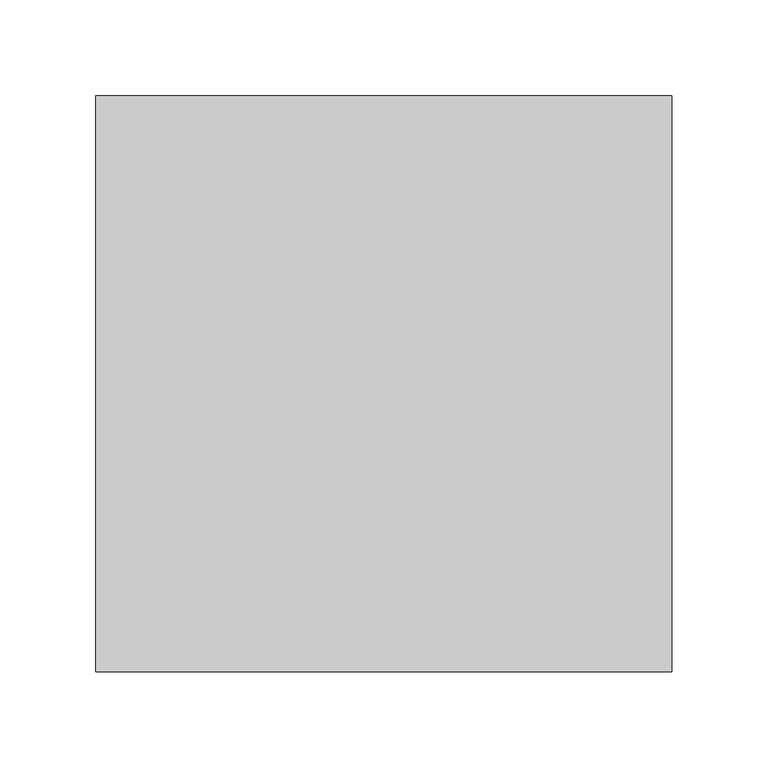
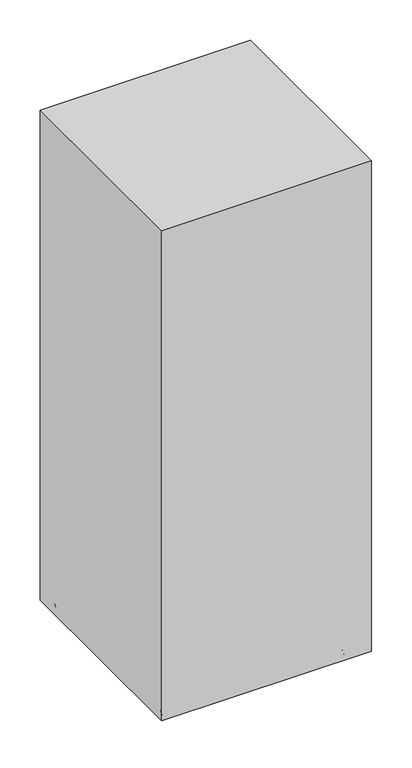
"""IFC4 building model written with IfcOpenShell, lengths in millimetres: furniture geometry, Audo Copenhagen - Plinth - Pedestal : Audo Copenhagen - Plinth - Pedestal."""

from ifc_helpers import new_model, si_unit, frame, origin, place, context, project, spatial, polyline, circle_curve, outline, extrude, source, transform, mapped, element, save
from ifc_brep_helpers import plane_surface, revolved_surface, advanced_brep


def furniture_3bb63632(model_context):
    return source(origin(), model_context, "Body", "SolidModel", [
        advanced_brep(
        [(-136.9781765, 129.9615145, 0.0), (-122.9781765, 129.9615145, 0.0), (-139.9781765, 129.9615145, 9.9), (-119.9781765, 129.9615145, 9.9)],
        [
            (0, 1, circle_curve(frame((-129.9781765, 129.9615145, 0.0), z_axis=(0.0, 0.0, -1.0), x_axis=(-1.0, 0.0, 0.0)), 7.0)),
            (1, 0, circle_curve(frame((-129.9781765, 129.9615145, 0.0), z_axis=(0.0, 0.0, -1.0), x_axis=(1.0, 0.0, 0.0)), 7.0)),
            (2, 3, circle_curve(frame((-129.9781765, 129.9615145, 9.9), z_axis=(0.0, 0.0, 1.0), x_axis=(1.0, 0.0, 0.0)), 10.0)),
            (3, 2, circle_curve(frame((-129.9781765, 129.9615145, 9.9), z_axis=(0.0, 0.0, 1.0), x_axis=(-1.0, 0.0, 0.0)), 10.0)),
            (2, 0),
            (1, 3),
        ],
        [
            plane_surface(frame((-129.9781765, 129.9615145, 0.0), z_axis=(0.0, 0.0, -1.0), x_axis=(0.0, -1.0, 0.0))),
            plane_surface(frame((-129.9781765, 129.9615145, 9.9), z_axis=(0.0, 0.0, 1.0), x_axis=(0.0, -1.0, 0.0))),
            revolved_surface(polyline([(-122.9781765, 129.9615145, 0.0), (-119.9781765, 129.9615145, 9.899999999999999)]), (-129.9781765, 129.9615145, -23.1), (0.0, 0.0, 1.0)),
            revolved_surface(polyline([(-136.9781765, 129.9615145, 0.0), (-139.9781765, 129.9615145, 9.899999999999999)]), (-129.9781765, 129.9615145, -23.1), (0.0, 0.0, 1.0)),
        ],
        [
            (0, [[1, 2]]),
            (1, [[3, 4]]),
            (2, [[-3, 5, -2, 6]]),
            (3, [[-4, -6, -1, -5]]),
        ],
    ),
        advanced_brep(
        [(136.9781765, 129.9615145, 0.0), (122.9781765, 129.9615145, 0.0), (139.9781765, 129.9615145, 9.9), (119.9781765, 129.9615145, 9.9)],
        [
            (0, 1, circle_curve(frame((129.9781765, 129.9615145, 0.0), z_axis=(0.0, 0.0, -1.0), x_axis=(1.0, 0.0, 0.0)), 7.0)),
            (1, 0, circle_curve(frame((129.9781765, 129.9615145, 0.0), z_axis=(0.0, 0.0, -1.0), x_axis=(-1.0, 0.0, 0.0)), 7.0)),
            (2, 3, circle_curve(frame((129.9781765, 129.9615145, 9.9), z_axis=(0.0, 0.0, 1.0), x_axis=(-1.0, 0.0, 0.0)), 10.0)),
            (3, 2, circle_curve(frame((129.9781765, 129.9615145, 9.9), z_axis=(0.0, 0.0, 1.0), x_axis=(1.0, 0.0, 0.0)), 10.0)),
            (3, 1),
            (0, 2),
        ],
        [
            plane_surface(frame((129.9781765, 129.9615145, 0.0), z_axis=(0.0, 0.0, -1.0), x_axis=(0.0, 1.0, 0.0))),
            plane_surface(frame((129.9781765, 129.9615145, 9.9), z_axis=(0.0, 0.0, 1.0), x_axis=(0.0, 1.0, 0.0))),
            revolved_surface(polyline([(136.9781765, 129.9615145, 0.0), (139.9781765, 129.9615145, 9.899999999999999)]), (129.9781765, 129.9615145, -23.1), (0.0, 0.0, 1.0)),
            revolved_surface(polyline([(122.9781765, 129.9615145, 0.0), (119.9781765, 129.9615145, 9.899999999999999)]), (129.9781765, 129.9615145, -23.1), (0.0, 0.0, 1.0)),
        ],
        [
            (0, [[1, 2]]),
            (1, [[3, 4]]),
            (2, [[-4, 5, -1, 6]]),
            (3, [[-3, -6, -2, -5]]),
        ],
    ),
        advanced_brep(
        [(136.9781765, -129.9615145, 0.0), (122.9781765, -129.9615145, 0.0), (139.9781765, -129.9615145, 9.9), (119.9781765, -129.9615145, 9.9)],
        [
            (0, 1, circle_curve(frame((129.9781765, -129.9615145, 0.0), z_axis=(0.0, 0.0, -1.0), x_axis=(1.0, 0.0, 0.0)), 7.0)),
            (1, 0, circle_curve(frame((129.9781765, -129.9615145, 0.0), z_axis=(0.0, 0.0, -1.0), x_axis=(-1.0, 0.0, 0.0)), 7.0)),
            (2, 3, circle_curve(frame((129.9781765, -129.9615145, 9.9), z_axis=(0.0, 0.0, 1.0), x_axis=(-1.0, 0.0, 0.0)), 10.0)),
            (3, 2, circle_curve(frame((129.9781765, -129.9615145, 9.9), z_axis=(0.0, 0.0, 1.0), x_axis=(1.0, 0.0, 0.0)), 10.0)),
            (2, 0),
            (1, 3),
        ],
        [
            plane_surface(frame((129.9781765, -129.9615145, 0.0), z_axis=(0.0, 0.0, -1.0), x_axis=(0.0, 1.0, 0.0))),
            plane_surface(frame((129.9781765, -129.9615145, 9.9), z_axis=(0.0, 0.0, 1.0), x_axis=(0.0, 1.0, 0.0))),
            revolved_surface(polyline([(122.9781765, -129.9615145, 0.0), (119.9781765, -129.9615145, 9.899999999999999)]), (129.9781765, -129.9615145, -23.1), (0.0, 0.0, 1.0)),
            revolved_surface(polyline([(136.9781765, -129.9615145, 0.0), (139.9781765, -129.9615145, 9.899999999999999)]), (129.9781765, -129.9615145, -23.1), (0.0, 0.0, 1.0)),
        ],
        [
            (0, [[1, 2]]),
            (1, [[3, 4]]),
            (2, [[-3, 5, -2, 6]]),
            (3, [[-4, -6, -1, -5]]),
        ],
    ),
        advanced_brep(
        [(-136.9781765, -129.9615145, 0.0), (-122.9781765, -129.9615145, 0.0), (-139.9781765, -129.9615145, 9.9), (-119.9781765, -129.9615145, 9.9)],
        [
            (0, 1, circle_curve(frame((-129.9781765, -129.9615145, 0.0), z_axis=(0.0, 0.0, -1.0), x_axis=(-1.0, 0.0, 0.0)), 7.0)),
            (1, 0, circle_curve(frame((-129.9781765, -129.9615145, 0.0), z_axis=(0.0, 0.0, -1.0), x_axis=(1.0, 0.0, 0.0)), 7.0)),
            (2, 3, circle_curve(frame((-129.9781765, -129.9615145, 9.9), z_axis=(0.0, 0.0, 1.0), x_axis=(1.0, 0.0, 0.0)), 10.0)),
            (3, 2, circle_curve(frame((-129.9781765, -129.9615145, 9.9), z_axis=(0.0, 0.0, 1.0), x_axis=(-1.0, 0.0, 0.0)), 10.0)),
            (3, 1),
            (0, 2),
        ],
        [
            plane_surface(frame((-129.9781765, -129.9615145, 0.0), z_axis=(0.0, 0.0, -1.0), x_axis=(0.0, -1.0, 0.0))),
            plane_surface(frame((-129.9781765, -129.9615145, 9.9), z_axis=(0.0, 0.0, 1.0), x_axis=(0.0, -1.0, 0.0))),
            revolved_surface(polyline([(-136.9781765, -129.9615145, 0.0), (-139.9781765, -129.9615145, 9.899999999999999)]), (-129.9781765, -129.9615145, -23.1), (0.0, 0.0, 1.0)),
            revolved_surface(polyline([(-122.9781765, -129.9615145, 0.0), (-119.9781765, -129.9615145, 9.899999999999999)]), (-129.9781765, -129.9615145, -23.1), (0.0, 0.0, 1.0)),
        ],
        [
            (0, [[1, 2]]),
            (1, [[3, 4]]),
            (2, [[-4, 5, -1, 6]]),
            (3, [[-3, -6, -2, -5]]),
        ],
    ),
        extrude(outline(polyline([(-150.0, -150.0), (-150.0, 150.0), (150.0, 150.0), (150.0, -150.0), (-150.0, -150.0)])), frame((0.0, 0.0, 9.9), z_axis=(0.0, 0.0, 1.0), x_axis=(1.0, 0.0, 0.0)), (0.0, 0.0, 1.0), 740.1),
    ])


if __name__ == "__main__":
    model = new_model("IFC4")
    model_context = context("Model", 3, world=origin())
    ifc_project = project(units=[si_unit("LENGTHUNIT", "METRE", prefix="MILLI")], contexts=[model_context])
    site = spatial("IfcSite", under=ifc_project)
    building = spatial("IfcBuilding", under=site)
    placement = place(None, origin())
    furniture_shape = furniture_3bb63632(model_context)
    element("IfcFurniture", 1, ObjectType="Audo Copenhagen - Plinth - Pedestal : Audo Copenhagen - Plinth - Pedestal", at=placement, inside=building, context=model_context, shape_type="MappedRepresentation", body=[
        mapped(furniture_shape, transform((0.0, 0.0, 0.0), x_axis=(1.0, 0.0, 0.0), y_axis=(0.0, 1.0, 0.0), z_axis=(0.0, 0.0, 1.0))),
    ])
    save(model, "model.ifc")
